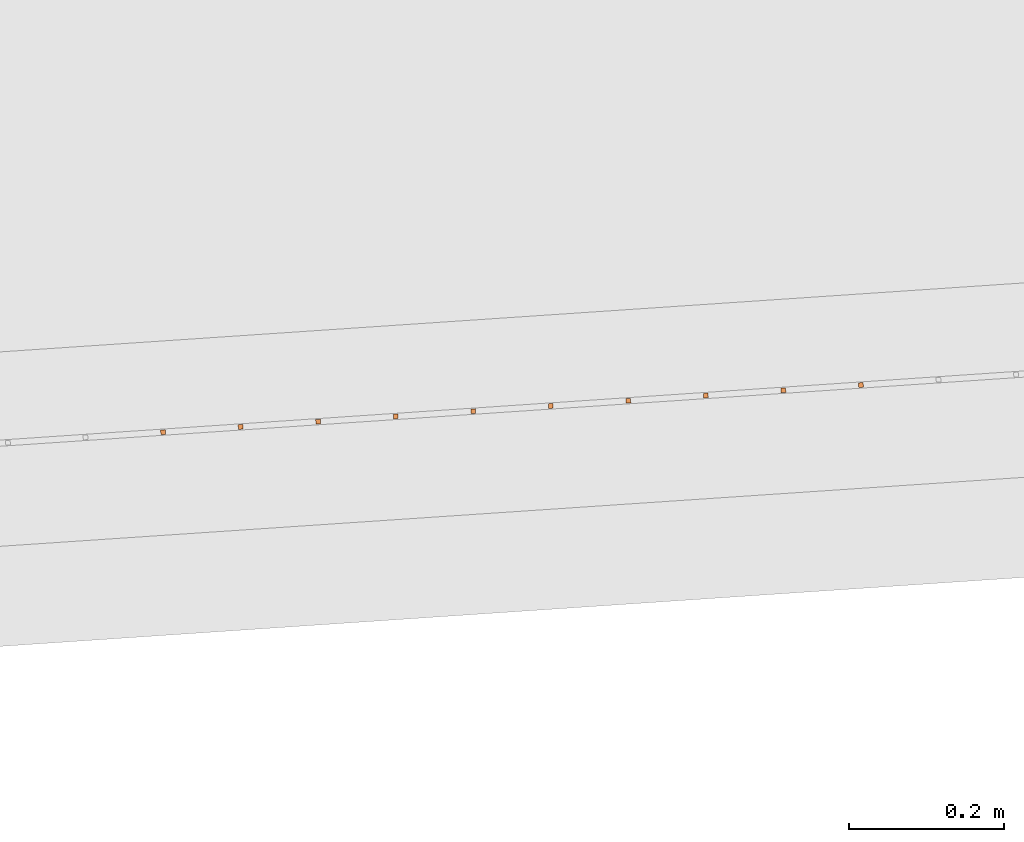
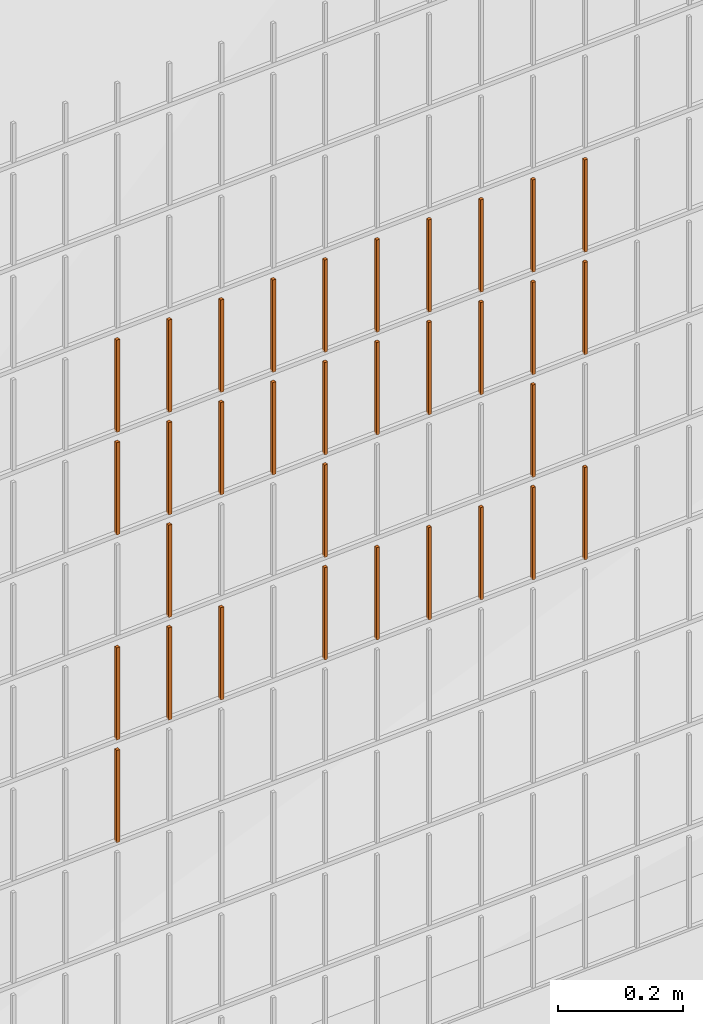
# One storey, part 72 of 1809: 33 proxies, 1 element without a shape of its own.
"""IFC2X3 building model written with IfcOpenShell, lengths in millimetres."""

from ifc_helpers import new_model, entity, si_unit, converted_unit, derived_unit, money_unit, direction, frame, origin_with_axes, place, context, subcontext, project, spatial, faceted_brep, source, transform, mapped, material, type_object, element, aggregate, save


model = new_model("IFC2X3")

# Units and contexts
model_context = context("Model", 3, precision=0.01, world=origin_with_axes(), true_north=direction((0.0, 1.0)))
body_context = subcontext(model_context, "Body", "Model", "MODEL_VIEW")
ifc_project = project(units=[si_unit("LENGTHUNIT", "METRE", prefix="MILLI"), si_unit("AREAUNIT", "SQUARE_METRE"), si_unit("VOLUMEUNIT", "CUBIC_METRE"), converted_unit("PLANEANGLEUNIT", "DEGREE", entity("IfcPlaneAngleMeasure", 0.0174532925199), si_unit("PLANEANGLEUNIT", "RADIAN"), dimensions=[0, 0, 0, 0, 0, 0, 0]), si_unit("SOLIDANGLEUNIT", "STERADIAN"), money_unit("EUR"), converted_unit("TIMEUNIT", "Year", entity("IfcTimeMeasure", 31556926.0), si_unit("TIMEUNIT", "SECOND"), dimensions=[0, 0, 1, 0, 0, 0, 0]), si_unit("MASSUNIT", "GRAM", prefix="KILO"), si_unit("THERMODYNAMICTEMPERATUREUNIT", "DEGREE_CELSIUS"), si_unit("LUMINOUSINTENSITYUNIT", "LUMEN"), si_unit("ENERGYUNIT", "JOULE", prefix="MEGA"), derived_unit("THERMALCONDUCTANCEUNIT", [(si_unit("POWERUNIT", "WATT"), 1), (si_unit("LENGTHUNIT", "METRE"), -1), (si_unit("THERMODYNAMICTEMPERATUREUNIT", "KELVIN"), -1)]), derived_unit("SPECIFICHEATCAPACITYUNIT", [(si_unit("ENERGYUNIT", "JOULE"), 1), (si_unit("MASSUNIT", "GRAM", prefix="KILO"), -1), (si_unit("THERMODYNAMICTEMPERATUREUNIT", "KELVIN"), -1)]), derived_unit("MASSDENSITYUNIT", [(si_unit("MASSUNIT", "GRAM", prefix="KILO"), 1), (si_unit("VOLUMEUNIT", "CUBIC_METRE"), -1)])], contexts=[model_context])

# Site, building, storey
site_placement = place(None, origin_with_axes())
site = spatial("IfcSite", under=ifc_project, at=site_placement, Name="Politse- ja Piirivalveameti ning Päästeameti ühishoone", CompositionType="ELEMENT")
building_placement = place(site_placement, origin_with_axes())
building = spatial("IfcBuilding", under=site, at=building_placement, Name="Politse- ja Piirivalveameti ning Päästeameti ühishoone", CompositionType="ELEMENT")
storey_placement = place(building_placement, origin_with_axes())
storey = spatial("IfcBuildingStorey", under=building, at=storey_placement, Name="Esimene korrus", CompositionType="ELEMENT", Elevation=0.0)

# Proxies
building_element_proxy_type_1 = type_object("IfcBuildingElementProxyType", Name="Railing Type", PredefinedType="NOTDEFINED")
proxy_1_placement = place(storey_placement, frame((89252.001212, -29183.4766571, 203.661247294), z_axis=(0.0, 0.0, 1.0), x_axis=(1.0, 0.0, 0.0)))
proxy_1 = element("IfcBuildingElementProxy", 1, at=proxy_1_placement, inside=storey, type_object=building_element_proxy_type_1, Name="PIIRDEAED")
ifc_material = material(Name="ET-03_Raud")
building_element_proxy_type_2 = type_object("IfcBuildingElementProxyType", Name="IfcBuildingElementProxy", PredefinedType="NOTDEFINED")
shared_shape_1 = source(origin_with_axes(), body_context, "Body", "Brep", [
    faceted_brep([(3.0, 3.0, -0.000752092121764), (-3.0, 3.0, -0.000752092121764), (-3.0, 3.0, 179.99926046), (3.0, 3.0, 179.99926046), (3.0, -3.0, 0.000752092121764), (-3.0, -3.0, 0.000752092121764), (-3.0, -3.0, 180.000764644), (3.0, -3.0, 180.000764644)], [[[0, 1, 2, 3]], [[0, 4, 5, 1]], [[1, 5, 6, 2]], [[3, 2, 6, 7]], [[4, 0, 3, 7]], [[5, 4, 7, 6]]]),
])
proxy_2_placement = place(proxy_1_placement, frame((-105187.003582, -24402.7598921, 1200.8041917), z_axis=(0.0, 0.0, 1.0), x_axis=(1.0, 0.0, 0.0)))
proxy_2 = element("IfcBuildingElementProxy", 2, at=proxy_2_placement, type_object=building_element_proxy_type_2, material=ifc_material, Name="BALUSTER - 001", context=body_context, shape_type="MappedRepresentation", body=[
    mapped(shared_shape_1, transform((0.0, 0.0, 0.0), x_axis=(-0.0673926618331, 0.997726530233, 0.0), y_axis=(-0.997726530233, -0.0673926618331, 0.0), z_axis=(0.0, 0.0, 1.0))),
])
shared_shape_2 = source(origin_with_axes(), body_context, "Body", "Brep", [
    faceted_brep([(3.0, 3.0, -0.000752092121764), (-3.0, 3.0, -0.000752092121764), (-3.0, 3.0, 179.99926046), (3.0, 3.0, 179.99926046), (3.0, -3.0, 0.000752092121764), (-3.0, -3.0, 0.000752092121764), (-3.0, -3.0, 180.000764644), (3.0, -3.0, 180.000764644)], [[[0, 1, 2, 3]], [[0, 4, 5, 1]], [[1, 5, 6, 2]], [[3, 2, 6, 7]], [[4, 0, 3, 7]], [[5, 4, 7, 6]]]),
])
proxy_3_placement = place(proxy_1_placement, frame((-105885.412153, -24449.9347554, 1200.62870353), z_axis=(0.0, 0.0, 1.0), x_axis=(1.0, 0.0, 0.0)))
proxy_3 = element("IfcBuildingElementProxy", 3, at=proxy_3_placement, type_object=building_element_proxy_type_2, material=ifc_material, Name="BALUSTER - 001", context=body_context, shape_type="MappedRepresentation", body=[
    mapped(shared_shape_2, transform((0.0, 0.0, 0.0), x_axis=(-0.0673926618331, 0.997726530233, 0.0), y_axis=(-0.997726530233, -0.0673926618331, 0.0), z_axis=(0.0, 0.0, 1.0))),
])
shared_shape_3 = source(origin_with_axes(), body_context, "Body", "Brep", [
    faceted_brep([(3.0, 3.0, -0.000752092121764), (-3.0, 3.0, -0.000752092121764), (-3.0, 3.0, 179.99926046), (3.0, 3.0, 179.99926046), (3.0, -3.0, 0.000752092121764), (-3.0, -3.0, 0.000752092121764), (-3.0, -3.0, 180.000764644), (3.0, -3.0, 180.000764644)], [[[0, 1, 2, 3]], [[0, 4, 5, 1]], [[1, 5, 6, 2]], [[3, 2, 6, 7]], [[4, 0, 3, 7]], [[5, 4, 7, 6]]]),
])
proxy_4_placement = place(proxy_1_placement, frame((-105885.412153, -24449.9347554, 1400.62870353), z_axis=(0.0, 0.0, 1.0), x_axis=(1.0, 0.0, 0.0)))
proxy_4 = element("IfcBuildingElementProxy", 4, at=proxy_4_placement, type_object=building_element_proxy_type_2, material=ifc_material, Name="BALUSTER - 001", context=body_context, shape_type="MappedRepresentation", body=[
    mapped(shared_shape_3, transform((0.0, 0.0, 0.0), x_axis=(-0.0673926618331, 0.997726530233, 0.0), y_axis=(-0.997726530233, -0.0673926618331, 0.0), z_axis=(0.0, 0.0, 1.0))),
])
shared_shape_4 = source(origin_with_axes(), body_context, "Body", "Brep", [
    faceted_brep([(3.0, 3.0, -0.000752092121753), (-3.0, 3.0, -0.000752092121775), (-3.0, 3.0, 179.99926046), (3.0, 3.0, 179.99926046), (3.0, -3.0, 0.000752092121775), (-3.0, -3.0, 0.000752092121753), (-3.0, -3.0, 180.000764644), (3.0, -3.0, 180.000764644)], [[[0, 1, 2, 3]], [[0, 4, 5, 1]], [[1, 5, 6, 2]], [[3, 2, 6, 7]], [[4, 0, 3, 7]], [[5, 4, 7, 6]]]),
])
proxy_5_placement = place(proxy_1_placement, frame((-105187.003582, -24402.7598921, 800.804191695), z_axis=(0.0, 0.0, 1.0), x_axis=(1.0, 0.0, 0.0)))
proxy_5 = element("IfcBuildingElementProxy", 5, at=proxy_5_placement, type_object=building_element_proxy_type_2, material=ifc_material, Name="BALUSTER - 001", context=body_context, shape_type="MappedRepresentation", body=[
    mapped(shared_shape_4, transform((0.0, 0.0, 0.0), x_axis=(-0.0673926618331, 0.997726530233, 0.0), y_axis=(-0.997726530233, -0.0673926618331, 0.0), z_axis=(0.0, 0.0, 1.0))),
])
shared_shape_5 = source(origin_with_axes(), body_context, "Body", "Brep", [
    faceted_brep([(3.0, 3.0, -0.000752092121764), (-3.0, 3.0, -0.000752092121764), (-3.0, 3.0, 179.99926046), (3.0, 3.0, 179.99926046), (3.0, -3.0, 0.000752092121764), (-3.0, -3.0, 0.000752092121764), (-3.0, -3.0, 180.000764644), (3.0, -3.0, 180.000764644)], [[[0, 1, 2, 3]], [[0, 4, 5, 1]], [[1, 5, 6, 2]], [[3, 2, 6, 7]], [[4, 0, 3, 7]], [[5, 4, 7, 6]]]),
])
proxy_6_placement = place(proxy_1_placement, frame((-105187.003582, -24402.7598921, 1400.8041917), z_axis=(0.0, 0.0, 1.0), x_axis=(1.0, 0.0, 0.0)))
proxy_6 = element("IfcBuildingElementProxy", 6, at=proxy_6_placement, type_object=building_element_proxy_type_2, material=ifc_material, Name="BALUSTER - 001", context=body_context, shape_type="MappedRepresentation", body=[
    mapped(shared_shape_5, transform((0.0, 0.0, 0.0), x_axis=(-0.0673926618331, 0.997726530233, 0.0), y_axis=(-0.997726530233, -0.0673926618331, 0.0), z_axis=(0.0, 0.0, 1.0))),
])
shared_shape_6 = source(origin_with_axes(), body_context, "Body", "Brep", [
    faceted_brep([(3.0, 3.0, -0.000752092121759), (-3.0, 3.0, -0.000752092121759), (-3.0, 3.0, 179.99926046), (3.0, 3.0, 179.99926046), (3.0, -3.0, 0.000752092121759), (-3.0, -3.0, 0.000752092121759), (-3.0, -3.0, 180.000764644), (3.0, -3.0, 180.000764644)], [[[0, 1, 2, 3]], [[0, 4, 5, 1]], [[1, 5, 6, 2]], [[3, 2, 6, 7]], [[4, 0, 3, 7]], [[5, 4, 7, 6]]]),
])
proxy_7_placement = place(proxy_1_placement, frame((-105386.548888, -24416.2384245, 1200.75405222), z_axis=(0.0, 0.0, 1.0), x_axis=(1.0, 0.0, 0.0)))
proxy_7 = element("IfcBuildingElementProxy", 7, at=proxy_7_placement, type_object=building_element_proxy_type_2, material=ifc_material, Name="BALUSTER - 001", context=body_context, shape_type="MappedRepresentation", body=[
    mapped(shared_shape_6, transform((0.0, 0.0, 0.0), x_axis=(-0.0673926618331, 0.997726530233, 0.0), y_axis=(-0.997726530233, -0.0673926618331, 0.0), z_axis=(0.0, 0.0, 1.0))),
])
proxy_8_placement = place(proxy_1_placement, frame((-105985.184806, -24456.6740216, 1200.6036338), z_axis=(0.0, 0.0, 1.0), x_axis=(1.0, 0.0, 0.0)))
proxy_8 = element("IfcBuildingElementProxy", 8, at=proxy_8_placement, type_object=building_element_proxy_type_2, material=ifc_material, Name="BALUSTER - 001", context=body_context, shape_type="MappedRepresentation", body=[
    mapped(shared_shape_6, transform((0.0, 0.0, 0.0), x_axis=(-0.0673926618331, 0.997726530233, 0.0), y_axis=(-0.997726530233, -0.0673926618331, 0.0), z_axis=(0.0, 0.0, 1.0))),
])
shared_shape_7 = source(origin_with_axes(), body_context, "Body", "Brep", [
    faceted_brep([(3.0, 3.0, -0.000752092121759), (-3.0, 3.0, -0.000752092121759), (-3.0, 3.0, 179.99926046), (3.0, 3.0, 179.99926046), (3.0, -3.0, 0.000752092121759), (-3.0, -3.0, 0.000752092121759), (-3.0, -3.0, 180.000764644), (3.0, -3.0, 180.000764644)], [[[0, 1, 2, 3]], [[0, 4, 5, 1]], [[1, 5, 6, 2]], [[3, 2, 6, 7]], [[4, 0, 3, 7]], [[5, 4, 7, 6]]]),
])
proxy_9_placement = place(proxy_1_placement, frame((-105586.094194, -24429.7169569, 800.703912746), z_axis=(0.0, 0.0, 1.0), x_axis=(1.0, 0.0, 0.0)))
proxy_9 = element("IfcBuildingElementProxy", 9, at=proxy_9_placement, type_object=building_element_proxy_type_2, material=ifc_material, Name="BALUSTER - 001", context=body_context, shape_type="MappedRepresentation", body=[
    mapped(shared_shape_7, transform((0.0, 0.0, 0.0), x_axis=(-0.0673926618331, 0.997726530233, 0.0), y_axis=(-0.997726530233, -0.0673926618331, 0.0), z_axis=(0.0, 0.0, 1.0))),
])
shared_shape_8 = source(origin_with_axes(), body_context, "Body", "Brep", [
    faceted_brep([(3.0, 3.0, -0.000752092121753), (-3.0, 3.0, -0.000752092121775), (-3.0, 3.0, 179.99926046), (3.0, 3.0, 179.99926046), (3.0, -3.0, 0.000752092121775), (-3.0, -3.0, 0.000752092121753), (-3.0, -3.0, 180.000764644), (3.0, -3.0, 180.000764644)], [[[0, 1, 2, 3]], [[0, 4, 5, 1]], [[1, 5, 6, 2]], [[3, 2, 6, 7]], [[4, 0, 3, 7]], [[5, 4, 7, 6]]]),
])
proxy_10_placement = place(proxy_1_placement, frame((-105685.866847, -24436.456223, 800.678843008), z_axis=(0.0, 0.0, 1.0), x_axis=(1.0, 0.0, 0.0)))
proxy_10 = element("IfcBuildingElementProxy", 10, at=proxy_10_placement, type_object=building_element_proxy_type_2, material=ifc_material, Name="BALUSTER - 001", context=body_context, shape_type="MappedRepresentation", body=[
    mapped(shared_shape_8, transform((0.0, 0.0, 0.0), x_axis=(-0.0673926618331, 0.997726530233, 0.0), y_axis=(-0.997726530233, -0.0673926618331, 0.0), z_axis=(0.0, 0.0, 1.0))),
])
shared_shape_9 = source(origin_with_axes(), body_context, "Body", "Brep", [
    faceted_brep([(3.0, 3.0, -0.000752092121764), (-3.0, 3.0, -0.000752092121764), (-3.0, 3.0, 179.99926046), (3.0, 3.0, 179.99926046), (3.0, -3.0, 0.000752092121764), (-3.0, -3.0, 0.000752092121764), (-3.0, -3.0, 180.000764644), (3.0, -3.0, 180.000764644)], [[[0, 1, 2, 3]], [[0, 4, 5, 1]], [[1, 5, 6, 2]], [[3, 2, 6, 7]], [[4, 0, 3, 7]], [[5, 4, 7, 6]]]),
])
proxy_11_placement = place(proxy_1_placement, frame((-105386.548888, -24416.2384245, 800.75405222), z_axis=(0.0, 0.0, 1.0), x_axis=(1.0, 0.0, 0.0)))
proxy_11 = element("IfcBuildingElementProxy", 11, at=proxy_11_placement, type_object=building_element_proxy_type_2, material=ifc_material, Name="BALUSTER - 001", context=body_context, shape_type="MappedRepresentation", body=[
    mapped(shared_shape_9, transform((0.0, 0.0, 0.0), x_axis=(-0.0673926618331, 0.997726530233, 0.0), y_axis=(-0.997726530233, -0.0673926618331, 0.0), z_axis=(0.0, 0.0, 1.0))),
])
proxy_12_placement = place(proxy_1_placement, frame((-105985.184806, -24456.6740216, 800.603633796), z_axis=(0.0, 0.0, 1.0), x_axis=(1.0, 0.0, 0.0)))
proxy_12 = element("IfcBuildingElementProxy", 12, at=proxy_12_placement, type_object=building_element_proxy_type_2, material=ifc_material, Name="BALUSTER - 001", context=body_context, shape_type="MappedRepresentation", body=[
    mapped(shared_shape_9, transform((0.0, 0.0, 0.0), x_axis=(-0.0673926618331, 0.997726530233, 0.0), y_axis=(-0.997726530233, -0.0673926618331, 0.0), z_axis=(0.0, 0.0, 1.0))),
])
shared_shape_10 = source(origin_with_axes(), body_context, "Body", "Brep", [
    faceted_brep([(3.0, 3.0, -0.000752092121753), (-3.0, 3.0, -0.000752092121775), (-3.0, 3.0, 179.99926046), (3.0, 3.0, 179.99926046), (3.0, -3.0, 0.000752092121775), (-3.0, -3.0, 0.000752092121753), (-3.0, -3.0, 180.000764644), (3.0, -3.0, 180.000764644)], [[[0, 1, 2, 3]], [[0, 4, 5, 1]], [[1, 5, 6, 2]], [[3, 2, 6, 7]], [[4, 0, 3, 7]], [[5, 4, 7, 6]]]),
])
proxy_13_placement = place(proxy_1_placement, frame((-106084.957459, -24463.4132878, 600.578564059), z_axis=(0.0, 0.0, 1.0), x_axis=(1.0, 0.0, 0.0)))
proxy_13 = element("IfcBuildingElementProxy", 13, at=proxy_13_placement, type_object=building_element_proxy_type_2, material=ifc_material, Name="BALUSTER - 001", context=body_context, shape_type="MappedRepresentation", body=[
    mapped(shared_shape_10, transform((0.0, 0.0, 0.0), x_axis=(-0.0673926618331, 0.997726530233, 0.0), y_axis=(-0.997726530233, -0.0673926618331, 0.0), z_axis=(0.0, 0.0, 1.0))),
])
proxy_14_placement = place(proxy_1_placement, frame((-106084.957459, -24463.4132878, 800.578564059), z_axis=(0.0, 0.0, 1.0), x_axis=(1.0, 0.0, 0.0)))
proxy_14 = element("IfcBuildingElementProxy", 14, at=proxy_14_placement, type_object=building_element_proxy_type_2, material=ifc_material, Name="BALUSTER - 001", context=body_context, shape_type="MappedRepresentation", body=[
    mapped(shared_shape_10, transform((0.0, 0.0, 0.0), x_axis=(-0.0673926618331, 0.997726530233, 0.0), y_axis=(-0.997726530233, -0.0673926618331, 0.0), z_axis=(0.0, 0.0, 1.0))),
])
shared_shape_11 = source(origin_with_axes(), body_context, "Body", "Brep", [
    faceted_brep([(3.0, 3.0, -0.000752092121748), (-3.0, 3.0, -0.00075209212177), (-3.0, 3.0, 179.99926046), (3.0, 3.0, 179.99926046), (3.0, -3.0, 0.00075209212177), (-3.0, -3.0, 0.000752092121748), (-3.0, -3.0, 180.000764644), (3.0, -3.0, 180.000764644)], [[[0, 1, 2, 3]], [[0, 4, 5, 1]], [[1, 5, 6, 2]], [[3, 2, 6, 7]], [[4, 0, 3, 7]], [[5, 4, 7, 6]]]),
])
proxy_15_placement = place(proxy_1_placement, frame((-106084.957459, -24463.4132878, 1200.57856406), z_axis=(0.0, 0.0, 1.0), x_axis=(1.0, 0.0, 0.0)))
proxy_15 = element("IfcBuildingElementProxy", 15, at=proxy_15_placement, type_object=building_element_proxy_type_2, material=ifc_material, Name="BALUSTER - 001", context=body_context, shape_type="MappedRepresentation", body=[
    mapped(shared_shape_11, transform((0.0, 0.0, 0.0), x_axis=(-0.0673926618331, 0.997726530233, 0.0), y_axis=(-0.997726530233, -0.0673926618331, 0.0), z_axis=(0.0, 0.0, 1.0))),
])
shared_shape_12 = source(origin_with_axes(), body_context, "Body", "Brep", [
    faceted_brep([(3.0, 3.0, -0.000752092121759), (-3.0, 3.0, -0.000752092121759), (-3.0, 3.0, 179.99926046), (3.0, 3.0, 179.99926046), (3.0, -3.0, 0.000752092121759), (-3.0, -3.0, 0.000752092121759), (-3.0, -3.0, 180.000764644), (3.0, -3.0, 180.000764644)], [[[0, 1, 2, 3]], [[0, 4, 5, 1]], [[1, 5, 6, 2]], [[3, 2, 6, 7]], [[4, 0, 3, 7]], [[5, 4, 7, 6]]]),
])
proxy_16_placement = place(proxy_1_placement, frame((-105586.094194, -24429.7169569, 1200.70391275), z_axis=(0.0, 0.0, 1.0), x_axis=(1.0, 0.0, 0.0)))
proxy_16 = element("IfcBuildingElementProxy", 16, at=proxy_16_placement, type_object=building_element_proxy_type_2, material=ifc_material, Name="BALUSTER - 001", context=body_context, shape_type="MappedRepresentation", body=[
    mapped(shared_shape_12, transform((0.0, 0.0, 0.0), x_axis=(-0.0673926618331, 0.997726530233, 0.0), y_axis=(-0.997726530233, -0.0673926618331, 0.0), z_axis=(0.0, 0.0, 1.0))),
])
shared_shape_13 = source(origin_with_axes(), body_context, "Body", "Brep", [
    faceted_brep([(3.0, 3.0, -0.000752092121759), (-3.0, 3.0, -0.000752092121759), (-3.0, 3.0, 179.99926046), (3.0, 3.0, 179.99926046), (3.0, -3.0, 0.000752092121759), (-3.0, -3.0, 0.000752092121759), (-3.0, -3.0, 180.000764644), (3.0, -3.0, 180.000764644)], [[[0, 1, 2, 3]], [[0, 4, 5, 1]], [[1, 5, 6, 2]], [[3, 2, 6, 7]], [[4, 0, 3, 7]], [[5, 4, 7, 6]]]),
])
proxy_17_placement = place(proxy_1_placement, frame((-105486.321541, -24422.9776907, 800.728982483), z_axis=(0.0, 0.0, 1.0), x_axis=(1.0, 0.0, 0.0)))
proxy_17 = element("IfcBuildingElementProxy", 17, at=proxy_17_placement, type_object=building_element_proxy_type_2, material=ifc_material, Name="BALUSTER - 001", context=body_context, shape_type="MappedRepresentation", body=[
    mapped(shared_shape_13, transform((0.0, 0.0, 0.0), x_axis=(-0.0673926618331, 0.997726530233, 0.0), y_axis=(-0.997726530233, -0.0673926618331, 0.0), z_axis=(0.0, 0.0, 1.0))),
])
shared_shape_14 = source(origin_with_axes(), body_context, "Body", "Brep", [
    faceted_brep([(3.0, 3.0, -0.000752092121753), (-3.0, 3.0, -0.000752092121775), (-3.0, 3.0, 179.99926046), (3.0, 3.0, 179.99926046), (3.0, -3.0, 0.000752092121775), (-3.0, -3.0, 0.000752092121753), (-3.0, -3.0, 180.000764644), (3.0, -3.0, 180.000764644)], [[[0, 1, 2, 3]], [[0, 4, 5, 1]], [[1, 5, 6, 2]], [[3, 2, 6, 7]], [[4, 0, 3, 7]], [[5, 4, 7, 6]]]),
])
proxy_18_placement = place(proxy_1_placement, frame((-105885.412153, -24449.9347554, 800.628703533), z_axis=(0.0, 0.0, 1.0), x_axis=(1.0, 0.0, 0.0)))
proxy_18 = element("IfcBuildingElementProxy", 18, at=proxy_18_placement, type_object=building_element_proxy_type_2, material=ifc_material, Name="BALUSTER - 001", context=body_context, shape_type="MappedRepresentation", body=[
    mapped(shared_shape_14, transform((0.0, 0.0, 0.0), x_axis=(-0.0673926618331, 0.997726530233, 0.0), y_axis=(-0.997726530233, -0.0673926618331, 0.0), z_axis=(0.0, 0.0, 1.0))),
])
shared_shape_15 = source(origin_with_axes(), body_context, "Body", "Brep", [
    faceted_brep([(3.0, 3.0, -0.000752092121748), (-3.0, 3.0, -0.00075209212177), (-3.0, 3.0, 179.99926046), (3.0, 3.0, 179.99926046), (3.0, -3.0, 0.00075209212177), (-3.0, -3.0, 0.000752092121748), (-3.0, -3.0, 180.000764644), (3.0, -3.0, 180.000764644)], [[[0, 1, 2, 3]], [[0, 4, 5, 1]], [[1, 5, 6, 2]], [[3, 2, 6, 7]], [[4, 0, 3, 7]], [[5, 4, 7, 6]]]),
])
proxy_19_placement = place(proxy_1_placement, frame((-106084.957459, -24463.4132878, 1400.57856406), z_axis=(0.0, 0.0, 1.0), x_axis=(1.0, 0.0, 0.0)))
proxy_19 = element("IfcBuildingElementProxy", 19, at=proxy_19_placement, type_object=building_element_proxy_type_2, material=ifc_material, Name="BALUSTER - 001", context=body_context, shape_type="MappedRepresentation", body=[
    mapped(shared_shape_15, transform((0.0, 0.0, 0.0), x_axis=(-0.0673926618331, 0.997726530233, 0.0), y_axis=(-0.997726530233, -0.0673926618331, 0.0), z_axis=(0.0, 0.0, 1.0))),
])
shared_shape_16 = source(origin_with_axes(), body_context, "Body", "Brep", [
    faceted_brep([(3.0, 3.0, -0.000752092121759), (-3.0, 3.0, -0.000752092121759), (-3.0, 3.0, 179.99926046), (3.0, 3.0, 179.99926046), (3.0, -3.0, 0.000752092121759), (-3.0, -3.0, 0.000752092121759), (-3.0, -3.0, 180.000764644), (3.0, -3.0, 180.000764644)], [[[0, 1, 2, 3]], [[0, 4, 5, 1]], [[1, 5, 6, 2]], [[3, 2, 6, 7]], [[4, 0, 3, 7]], [[5, 4, 7, 6]]]),
])
proxy_20_placement = place(proxy_1_placement, frame((-105386.548888, -24416.2384245, 1400.75405222), z_axis=(0.0, 0.0, 1.0), x_axis=(1.0, 0.0, 0.0)))
proxy_20 = element("IfcBuildingElementProxy", 20, at=proxy_20_placement, type_object=building_element_proxy_type_2, material=ifc_material, Name="BALUSTER - 001", context=body_context, shape_type="MappedRepresentation", body=[
    mapped(shared_shape_16, transform((0.0, 0.0, 0.0), x_axis=(-0.0673926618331, 0.997726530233, 0.0), y_axis=(-0.997726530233, -0.0673926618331, 0.0), z_axis=(0.0, 0.0, 1.0))),
])
proxy_21_placement = place(proxy_1_placement, frame((-105985.184806, -24456.6740216, 1400.6036338), z_axis=(0.0, 0.0, 1.0), x_axis=(1.0, 0.0, 0.0)))
proxy_21 = element("IfcBuildingElementProxy", 21, at=proxy_21_placement, type_object=building_element_proxy_type_2, material=ifc_material, Name="BALUSTER - 001", context=body_context, shape_type="MappedRepresentation", body=[
    mapped(shared_shape_16, transform((0.0, 0.0, 0.0), x_axis=(-0.0673926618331, 0.997726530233, 0.0), y_axis=(-0.997726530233, -0.0673926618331, 0.0), z_axis=(0.0, 0.0, 1.0))),
])
shared_shape_17 = source(origin_with_axes(), body_context, "Body", "Brep", [
    faceted_brep([(3.0, 3.0, -0.000752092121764), (-3.0, 3.0, -0.000752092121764), (-3.0, 3.0, 179.99926046), (3.0, 3.0, 179.99926046), (3.0, -3.0, 0.000752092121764), (-3.0, -3.0, 0.000752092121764), (-3.0, -3.0, 180.000764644), (3.0, -3.0, 180.000764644)], [[[0, 1, 2, 3]], [[0, 4, 5, 1]], [[1, 5, 6, 2]], [[3, 2, 6, 7]], [[4, 0, 3, 7]], [[5, 4, 7, 6]]]),
])
proxy_22_placement = place(proxy_1_placement, frame((-105286.776235, -24409.4991583, 800.779121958), z_axis=(0.0, 0.0, 1.0), x_axis=(1.0, 0.0, 0.0)))
proxy_22 = element("IfcBuildingElementProxy", 22, at=proxy_22_placement, type_object=building_element_proxy_type_2, material=ifc_material, Name="BALUSTER - 001", context=body_context, shape_type="MappedRepresentation", body=[
    mapped(shared_shape_17, transform((0.0, 0.0, 0.0), x_axis=(-0.0673926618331, 0.997726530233, 0.0), y_axis=(-0.997726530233, -0.0673926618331, 0.0), z_axis=(0.0, 0.0, 1.0))),
])
proxy_23_placement = place(proxy_1_placement, frame((-105286.776235, -24409.4991583, 1200.77912196), z_axis=(0.0, 0.0, 1.0), x_axis=(1.0, 0.0, 0.0)))
proxy_23 = element("IfcBuildingElementProxy", 23, at=proxy_23_placement, type_object=building_element_proxy_type_2, material=ifc_material, Name="BALUSTER - 001", context=body_context, shape_type="MappedRepresentation", body=[
    mapped(shared_shape_17, transform((0.0, 0.0, 0.0), x_axis=(-0.0673926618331, 0.997726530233, 0.0), y_axis=(-0.997726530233, -0.0673926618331, 0.0), z_axis=(0.0, 0.0, 1.0))),
])
shared_shape_18 = source(origin_with_axes(), body_context, "Body", "Brep", [
    faceted_brep([(3.0, 3.0, -0.000752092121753), (-3.0, 3.0, -0.000752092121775), (-3.0, 3.0, 179.99926046), (3.0, 3.0, 179.99926046), (3.0, -3.0, 0.000752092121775), (-3.0, -3.0, 0.000752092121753), (-3.0, -3.0, 180.000764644), (3.0, -3.0, 180.000764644)], [[[0, 1, 2, 3]], [[0, 4, 5, 1]], [[1, 5, 6, 2]], [[3, 2, 6, 7]], [[4, 0, 3, 7]], [[5, 4, 7, 6]]]),
])
proxy_24_placement = place(proxy_1_placement, frame((-105685.866847, -24436.456223, 1200.67884301), z_axis=(0.0, 0.0, 1.0), x_axis=(1.0, 0.0, 0.0)))
proxy_24 = element("IfcBuildingElementProxy", 24, at=proxy_24_placement, type_object=building_element_proxy_type_2, material=ifc_material, Name="BALUSTER - 001", context=body_context, shape_type="MappedRepresentation", body=[
    mapped(shared_shape_18, transform((0.0, 0.0, 0.0), x_axis=(-0.0673926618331, 0.997726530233, 0.0), y_axis=(-0.997726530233, -0.0673926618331, 0.0), z_axis=(0.0, 0.0, 1.0))),
])
shared_shape_19 = source(origin_with_axes(), body_context, "Body", "Brep", [
    faceted_brep([(3.0, 3.0, -0.000752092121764), (-3.0, 3.0, -0.000752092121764), (-3.0, 3.0, 179.99926046), (3.0, 3.0, 179.99926046), (3.0, -3.0, 0.000752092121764), (-3.0, -3.0, 0.000752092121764), (-3.0, -3.0, 180.000764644), (3.0, -3.0, 180.000764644)], [[[0, 1, 2, 3]], [[0, 4, 5, 1]], [[1, 5, 6, 2]], [[3, 2, 6, 7]], [[4, 0, 3, 7]], [[5, 4, 7, 6]]]),
])
proxy_25_placement = place(proxy_1_placement, frame((-105286.776235, -24409.4991583, 1400.77912196), z_axis=(0.0, 0.0, 1.0), x_axis=(1.0, 0.0, 0.0)))
proxy_25 = element("IfcBuildingElementProxy", 25, at=proxy_25_placement, type_object=building_element_proxy_type_2, material=ifc_material, Name="BALUSTER - 001", context=body_context, shape_type="MappedRepresentation", body=[
    mapped(shared_shape_19, transform((0.0, 0.0, 0.0), x_axis=(-0.0673926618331, 0.997726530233, 0.0), y_axis=(-0.997726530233, -0.0673926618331, 0.0), z_axis=(0.0, 0.0, 1.0))),
])
shared_shape_20 = source(origin_with_axes(), body_context, "Body", "Brep", [
    faceted_brep([(3.0, 3.0, -0.000752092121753), (-3.0, 3.0, -0.000752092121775), (-3.0, 3.0, 179.99926046), (3.0, 3.0, 179.99926046), (3.0, -3.0, 0.000752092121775), (-3.0, -3.0, 0.000752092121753), (-3.0, -3.0, 180.000764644), (3.0, -3.0, 180.000764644)], [[[0, 1, 2, 3]], [[0, 4, 5, 1]], [[1, 5, 6, 2]], [[3, 2, 6, 7]], [[4, 0, 3, 7]], [[5, 4, 7, 6]]]),
])
proxy_26_placement = place(proxy_1_placement, frame((-105685.866847, -24436.456223, 1400.67884301), z_axis=(0.0, 0.0, 1.0), x_axis=(1.0, 0.0, 0.0)))
proxy_26 = element("IfcBuildingElementProxy", 26, at=proxy_26_placement, type_object=building_element_proxy_type_2, material=ifc_material, Name="BALUSTER - 001", context=body_context, shape_type="MappedRepresentation", body=[
    mapped(shared_shape_20, transform((0.0, 0.0, 0.0), x_axis=(-0.0673926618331, 0.997726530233, 0.0), y_axis=(-0.997726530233, -0.0673926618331, 0.0), z_axis=(0.0, 0.0, 1.0))),
])
shared_shape_21 = source(origin_with_axes(), body_context, "Body", "Brep", [
    faceted_brep([(3.0, 3.0, -0.000752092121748), (-3.0, 3.0, -0.00075209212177), (-3.0, 3.0, 179.99926046), (3.0, 3.0, 179.99926046), (3.0, -3.0, 0.00075209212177), (-3.0, -3.0, 0.000752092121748), (-3.0, -3.0, 180.000764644), (3.0, -3.0, 180.000764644)], [[[0, 1, 2, 3]], [[0, 4, 5, 1]], [[1, 5, 6, 2]], [[3, 2, 6, 7]], [[4, 0, 3, 7]], [[5, 4, 7, 6]]]),
])
proxy_27_placement = place(proxy_1_placement, frame((-105486.321541, -24422.9776907, 1200.72898248), z_axis=(0.0, 0.0, 1.0), x_axis=(1.0, 0.0, 0.0)))
proxy_27 = element("IfcBuildingElementProxy", 27, at=proxy_27_placement, type_object=building_element_proxy_type_2, material=ifc_material, Name="BALUSTER - 001", context=body_context, shape_type="MappedRepresentation", body=[
    mapped(shared_shape_21, transform((0.0, 0.0, 0.0), x_axis=(-0.0673926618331, 0.997726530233, 0.0), y_axis=(-0.997726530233, -0.0673926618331, 0.0), z_axis=(0.0, 0.0, 1.0))),
])
shared_shape_22 = source(origin_with_axes(), body_context, "Body", "Brep", [
    faceted_brep([(3.0, 3.0, -0.000752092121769), (-3.0, 3.0, -0.000752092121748), (-3.0, 3.0, 179.99926046), (3.0, 3.0, 179.99926046), (3.0, -3.0, 0.000752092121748), (-3.0, -3.0, 0.000752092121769), (-3.0, -3.0, 180.000764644), (3.0, -3.0, 180.000764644)], [[[0, 1, 2, 3]], [[0, 4, 5, 1]], [[1, 5, 6, 2]], [[3, 2, 6, 7]], [[4, 0, 3, 7]], [[5, 4, 7, 6]]]),
])
proxy_28_placement = place(proxy_1_placement, frame((-105785.6395, -24443.1954892, 1200.65377327), z_axis=(0.0, 0.0, 1.0), x_axis=(1.0, 0.0, 0.0)))
proxy_28 = element("IfcBuildingElementProxy", 28, at=proxy_28_placement, type_object=building_element_proxy_type_2, material=ifc_material, Name="BALUSTER - 001", context=body_context, shape_type="MappedRepresentation", body=[
    mapped(shared_shape_22, transform((0.0, 0.0, 0.0), x_axis=(-0.0673926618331, 0.997726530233, 0.0), y_axis=(-0.997726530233, -0.0673926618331, 0.0), z_axis=(0.0, 0.0, 1.0))),
])
shared_shape_23 = source(origin_with_axes(), body_context, "Body", "Brep", [
    faceted_brep([(3.0, 3.0, -0.000752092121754), (-3.0, 3.0, -0.000752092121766), (-3.00000000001, 3.00000000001, 179.99926046), (2.99999999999, 3.00000000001, 179.99926046), (3.0, -3.0, 0.000752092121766), (-3.0, -3.0, 0.000752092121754), (-3.00000000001, -2.99999999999, 180.000764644), (2.99999999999, -2.99999999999, 180.000764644)], [[[0, 1, 2, 3]], [[0, 4, 5, 1]], [[1, 5, 6, 2]], [[3, 2, 6, 7]], [[4, 0, 3, 7]], [[5, 4, 7, 6]]]),
])
proxy_29_placement = place(proxy_1_placement, frame((-105286.776235, -24409.4991583, 1000.77912196), z_axis=(0.0, 0.0, 1.0), x_axis=(1.0, 0.0, 0.0)))
proxy_29 = element("IfcBuildingElementProxy", 29, at=proxy_29_placement, type_object=building_element_proxy_type_2, material=ifc_material, Name="BALUSTER - 001", context=body_context, shape_type="MappedRepresentation", body=[
    mapped(shared_shape_23, transform((0.0, 0.0, 0.0), x_axis=(-0.0673926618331, 0.997726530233, 0.0), y_axis=(-0.997726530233, -0.0673926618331, 0.0), z_axis=(0.0, 0.0, 1.0))),
])
shared_shape_24 = source(origin_with_axes(), body_context, "Body", "Brep", [
    faceted_brep([(3.0, 3.0, -0.000752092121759), (-3.0, 3.0, -0.000752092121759), (-3.0, 3.0, 179.99926046), (3.0, 3.0, 179.99926046), (3.0, -3.0, 0.000752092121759), (-3.0, -3.0, 0.000752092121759), (-3.0, -3.0, 180.000764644), (3.0, -3.0, 180.000764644)], [[[0, 1, 2, 3]], [[0, 4, 5, 1]], [[1, 5, 6, 2]], [[3, 2, 6, 7]], [[4, 0, 3, 7]], [[5, 4, 7, 6]]]),
])
proxy_30_placement = place(proxy_1_placement, frame((-105586.094194, -24429.7169569, 1400.70391275), z_axis=(0.0, 0.0, 1.0), x_axis=(1.0, 0.0, 0.0)))
proxy_30 = element("IfcBuildingElementProxy", 30, at=proxy_30_placement, type_object=building_element_proxy_type_2, material=ifc_material, Name="BALUSTER - 001", context=body_context, shape_type="MappedRepresentation", body=[
    mapped(shared_shape_24, transform((0.0, 0.0, 0.0), x_axis=(-0.0673926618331, 0.997726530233, 0.0), y_axis=(-0.997726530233, -0.0673926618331, 0.0), z_axis=(0.0, 0.0, 1.0))),
])
shared_shape_25 = source(origin_with_axes(), body_context, "Body", "Brep", [
    faceted_brep([(3.0, 3.0, -0.000752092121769), (-3.0, 3.0, -0.000752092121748), (-3.0, 3.0, 179.99926046), (3.0, 3.0, 179.99926046), (3.0, -3.0, 0.000752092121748), (-3.0, -3.0, 0.000752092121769), (-3.0, -3.0, 180.000764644), (3.0, -3.0, 180.000764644)], [[[0, 1, 2, 3]], [[0, 4, 5, 1]], [[1, 5, 6, 2]], [[3, 2, 6, 7]], [[4, 0, 3, 7]], [[5, 4, 7, 6]]]),
])
proxy_31_placement = place(proxy_1_placement, frame((-105785.6395, -24443.1954892, 1400.65377327), z_axis=(0.0, 0.0, 1.0), x_axis=(1.0, 0.0, 0.0)))
proxy_31 = element("IfcBuildingElementProxy", 31, at=proxy_31_placement, type_object=building_element_proxy_type_2, material=ifc_material, Name="BALUSTER - 001", context=body_context, shape_type="MappedRepresentation", body=[
    mapped(shared_shape_25, transform((0.0, 0.0, 0.0), x_axis=(-0.0673926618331, 0.997726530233, 0.0), y_axis=(-0.997726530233, -0.0673926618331, 0.0), z_axis=(0.0, 0.0, 1.0))),
])
shared_shape_26 = source(origin_with_axes(), body_context, "Body", "Brep", [
    faceted_brep([(3.0, 3.0, -0.000752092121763), (-3.0, 3.0, -0.000752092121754), (-3.00000000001, 3.0, 179.99926046), (2.99999999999, 3.0, 179.99926046), (3.0, -3.0, 0.000752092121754), (-3.0, -3.0, 0.000752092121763), (-3.00000000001, -3.0, 180.000764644), (2.99999999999, -3.0, 180.000764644)], [[[0, 1, 2, 3]], [[0, 4, 5, 1]], [[1, 5, 6, 2]], [[3, 2, 6, 7]], [[4, 0, 3, 7]], [[5, 4, 7, 6]]]),
])
proxy_32_placement = place(proxy_1_placement, frame((-105985.184806, -24456.6740216, 1000.6036338), z_axis=(0.0, 0.0, 1.0), x_axis=(1.0, 0.0, 0.0)))
proxy_32 = element("IfcBuildingElementProxy", 32, at=proxy_32_placement, type_object=building_element_proxy_type_2, material=ifc_material, Name="BALUSTER - 001", context=body_context, shape_type="MappedRepresentation", body=[
    mapped(shared_shape_26, transform((0.0, 0.0, 0.0), x_axis=(-0.0673926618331, 0.997726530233, 0.0), y_axis=(-0.997726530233, -0.0673926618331, 0.0), z_axis=(0.0, 0.0, 1.0))),
])
shared_shape_27 = source(origin_with_axes(), body_context, "Body", "Brep", [
    faceted_brep([(3.0, 3.0, -0.000752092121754), (-3.0, 3.0, -0.000752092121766), (-3.00000000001, 3.00000000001, 179.99926046), (2.99999999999, 3.00000000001, 179.99926046), (3.0, -3.0, 0.000752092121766), (-3.0, -3.0, 0.000752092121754), (-3.00000000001, -2.99999999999, 180.000764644), (2.99999999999, -2.99999999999, 180.000764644)], [[[0, 1, 2, 3]], [[0, 4, 5, 1]], [[1, 5, 6, 2]], [[3, 2, 6, 7]], [[4, 0, 3, 7]], [[5, 4, 7, 6]]]),
])
proxy_33_placement = place(proxy_1_placement, frame((-105685.866847, -24436.456223, 1000.67884301), z_axis=(0.0, 0.0, 1.0), x_axis=(1.0, 0.0, 0.0)))
proxy_33 = element("IfcBuildingElementProxy", 33, at=proxy_33_placement, type_object=building_element_proxy_type_2, material=ifc_material, Name="BALUSTER - 001", context=body_context, shape_type="MappedRepresentation", body=[
    mapped(shared_shape_27, transform((0.0, 0.0, 0.0), x_axis=(-0.0673926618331, 0.997726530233, 0.0), y_axis=(-0.997726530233, -0.0673926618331, 0.0), z_axis=(0.0, 0.0, 1.0))),
])
shared_shape_28 = source(origin_with_axes(), body_context, "Body", "Brep", [
    faceted_brep([(3.0, 3.0, -0.000752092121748), (-3.0, 3.0, -0.00075209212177), (-3.0, 3.0, 179.99926046), (3.0, 3.0, 179.99926046), (3.0, -3.0, 0.00075209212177), (-3.0, -3.0, 0.000752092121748), (-3.0, -3.0, 180.000764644), (3.0, -3.0, 180.000764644)], [[[0, 1, 2, 3]], [[0, 4, 5, 1]], [[1, 5, 6, 2]], [[3, 2, 6, 7]], [[4, 0, 3, 7]], [[5, 4, 7, 6]]]),
])
proxy_34_placement = place(proxy_1_placement, frame((-105486.321541, -24422.9776907, 1400.72898248), z_axis=(0.0, 0.0, 1.0), x_axis=(1.0, 0.0, 0.0)))
proxy_34 = element("IfcBuildingElementProxy", 34, at=proxy_34_placement, type_object=building_element_proxy_type_2, material=ifc_material, Name="BALUSTER - 001", context=body_context, shape_type="MappedRepresentation", body=[
    mapped(shared_shape_28, transform((0.0, 0.0, 0.0), x_axis=(-0.0673926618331, 0.997726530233, 0.0), y_axis=(-0.997726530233, -0.0673926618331, 0.0), z_axis=(0.0, 0.0, 1.0))),
])
aggregate(proxy_1, [proxy_13, proxy_5, proxy_22, proxy_11, proxy_17, proxy_9, proxy_10, proxy_18, proxy_12, proxy_14, proxy_29, proxy_33, proxy_32, proxy_2, proxy_23, proxy_7, proxy_27, proxy_16, proxy_24, proxy_28, proxy_3, proxy_8, proxy_15, proxy_6, proxy_25, proxy_20, proxy_34, proxy_30, proxy_26, proxy_31, proxy_4, proxy_21, proxy_19])

save(model, "model.ifc")
